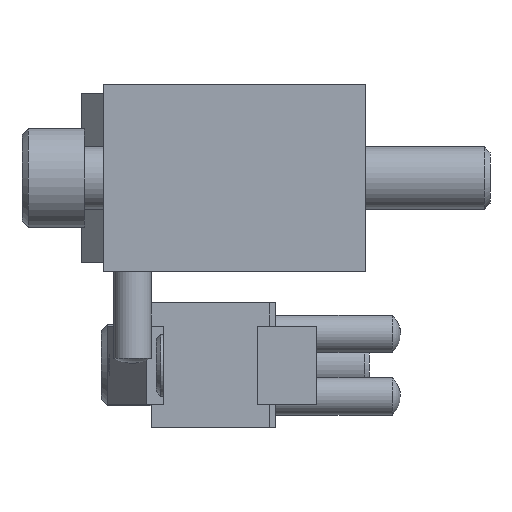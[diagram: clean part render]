
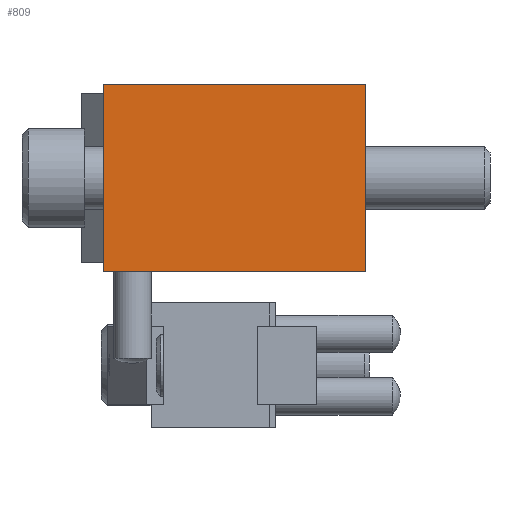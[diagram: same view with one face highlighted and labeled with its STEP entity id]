
A CAD part, left-side view. The second image highlights one B-rep face of the part: STEP entity #809.
In plain terms, the highlighted planar face has unit normal (-1, 0, 0).
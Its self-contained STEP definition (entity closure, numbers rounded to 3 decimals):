
#809 = ADVANCED_FACE( '', ( #1510 ), #1511, .F. );
#1510 = FACE_OUTER_BOUND( '', #2197, .T. );
#1511 = PLANE( '', #2198 );
#2197 = EDGE_LOOP( '', ( #3445, #3446, #3447, #3448 ) );
#2198 = AXIS2_PLACEMENT_3D( '', #3449, #3450, #3451 );
#3445 = ORIENTED_EDGE( '', *, *, #4354, .T. );
#3446 = ORIENTED_EDGE( '', *, *, #4315, .F. );
#3447 = ORIENTED_EDGE( '', *, *, #4355, .F. );
#3448 = ORIENTED_EDGE( '', *, *, #4356, .T. );
#3449 = CARTESIAN_POINT( '', ( 0., 42., -15. ) );
#3450 = DIRECTION( '', ( 1., 0., 0. ) );
#3451 = DIRECTION( '', ( 0., 0., -1. ) );
#4315 = EDGE_CURVE( '', #5118, #5116, #5120, .T. );
#4354 = EDGE_CURVE( '', #5169, #5116, #5170, .T. );
#4355 = EDGE_CURVE( '', #5171, #5118, #5172, .T. );
#4356 = EDGE_CURVE( '', #5171, #5169, #5173, .T. );
#5116 = VERTEX_POINT( '', #6232 );
#5118 = VERTEX_POINT( '', #6235 );
#5120 = LINE( '', #6238, #6239 );
#5169 = VERTEX_POINT( '', #6299 );
#5170 = LINE( '', #6300, #6301 );
#5171 = VERTEX_POINT( '', #6302 );
#5172 = LINE( '', #6303, #6304 );
#5173 = LINE( '', #6305, #6306 );
#6232 = CARTESIAN_POINT( '', ( 0., 0., 15. ) );
#6235 = CARTESIAN_POINT( '', ( 0., 42., 15. ) );
#6238 = CARTESIAN_POINT( '', ( 0., 42., 15. ) );
#6239 = VECTOR( '', #6887, 1000. );
#6299 = CARTESIAN_POINT( '', ( 0., 0., -15. ) );
#6300 = CARTESIAN_POINT( '', ( 0., 0., -15. ) );
#6301 = VECTOR( '', #6926, 1000. );
#6302 = CARTESIAN_POINT( '', ( 0., 42., -15. ) );
#6303 = CARTESIAN_POINT( '', ( 0., 42., -15. ) );
#6304 = VECTOR( '', #6927, 1000. );
#6305 = CARTESIAN_POINT( '', ( 0., 42., -15. ) );
#6306 = VECTOR( '', #6928, 1000. );
#6887 = DIRECTION( '', ( 0., -1., 0. ) );
#6926 = DIRECTION( '', ( 0., 0., 1. ) );
#6927 = DIRECTION( '', ( 0., 0., 1. ) );
#6928 = DIRECTION( '', ( 0., -1., 0. ) );
